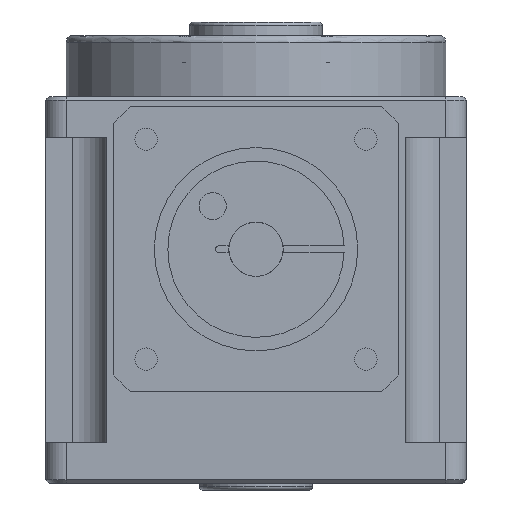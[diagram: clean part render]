
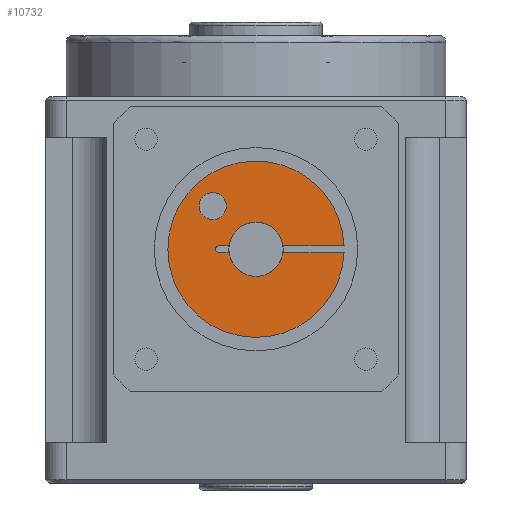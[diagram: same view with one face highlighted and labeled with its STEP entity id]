
A CAD part, front view. The second image highlights one B-rep face of the part: STEP entity #10732.
In plain terms, the highlighted planar face has unit normal (0, -1, 0) as drawn and (0, 0, -1) by its records, which use the part's own axes.
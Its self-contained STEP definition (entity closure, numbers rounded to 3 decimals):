
#106 = DIRECTION ( 'NONE',  ( -1., 0., 0. ) ) ;
#503 = DIRECTION ( 'NONE',  ( -1., 0., 0. ) ) ;
#513 = LINE ( 'NONE', #11196, #1569 ) ;
#548 = ORIENTED_EDGE ( 'NONE', *, *, #11137, .T. ) ;
#618 = DIRECTION ( 'NONE',  ( 0., 0., -1. ) ) ;
#731 = CARTESIAN_POINT ( 'NONE',  ( -5.5, 0., -48.5 ) ) ;
#859 = DIRECTION ( 'NONE',  ( -1., 0., 0. ) ) ;
#901 = CARTESIAN_POINT ( 'NONE',  ( 12.99, 0.5, -48.5 ) ) ;
#903 = VERTEX_POINT ( 'NONE', #6035 ) ;
#1033 = VERTEX_POINT ( 'NONE', #2466 ) ;
#1353 = CARTESIAN_POINT ( 'NONE',  ( -4.378, -6.35, -48.5 ) ) ;
#1412 = EDGE_CURVE ( 'NONE', #8271, #3843, #10724, .T. ) ;
#1507 = DIRECTION ( 'NONE',  ( -1., 0., 0. ) ) ;
#1514 = DIRECTION ( 'NONE',  ( -1., 0., 0. ) ) ;
#1569 = VECTOR ( 'NONE', #1514, 1000. ) ;
#1593 = CARTESIAN_POINT ( 'NONE',  ( 0., 0., -48.5 ) ) ;
#1730 = ORIENTED_EDGE ( 'NONE', *, *, #9879, .F. ) ;
#1823 = FACE_OUTER_BOUND ( 'NONE', #7203, .T. ) ;
#1882 = VERTEX_POINT ( 'NONE', #3974 ) ;
#2012 = ORIENTED_EDGE ( 'NONE', *, *, #7474, .F. ) ;
#2095 = AXIS2_PLACEMENT_3D ( 'NONE', #10063, #9122, #503 ) ;
#2235 = EDGE_CURVE ( 'NONE', #9010, #4891, #513, .T. ) ;
#2466 = CARTESIAN_POINT ( 'NONE',  ( -5.5, -0.5, -48.5 ) ) ;
#2651 = VERTEX_POINT ( 'NONE', #5650 ) ;
#2685 = AXIS2_PLACEMENT_3D ( 'NONE', #1593, #12397, #3771 ) ;
#2720 = ORIENTED_EDGE ( 'NONE', *, *, #2235, .T. ) ;
#2767 = CARTESIAN_POINT ( 'NONE',  ( 0., -0.5, -48.5 ) ) ;
#3241 = VERTEX_POINT ( 'NONE', #6769 ) ;
#3245 = CARTESIAN_POINT ( 'NONE',  ( -5.5, 0.5, -48.5 ) ) ;
#3474 = ORIENTED_EDGE ( 'NONE', *, *, #5657, .F. ) ;
#3583 = CARTESIAN_POINT ( 'NONE',  ( 0., -0.5, -48.5 ) ) ;
#3596 = AXIS2_PLACEMENT_3D ( 'NONE', #731, #4567, #9480 ) ;
#3626 = EDGE_CURVE ( 'NONE', #3843, #8271, #8509, .T. ) ;
#3697 = VECTOR ( 'NONE', #12256, 1000. ) ;
#3717 = DIRECTION ( 'NONE',  ( -1., 0., 0. ) ) ;
#3771 = DIRECTION ( 'NONE',  ( -1., 0., 0. ) ) ;
#3843 = VERTEX_POINT ( 'NONE', #7427 ) ;
#3938 = DIRECTION ( 'NONE',  ( 0., 0., -1. ) ) ;
#3974 = CARTESIAN_POINT ( 'NONE',  ( -3.969, -0.5, -48.5 ) ) ;
#4311 = AXIS2_PLACEMENT_3D ( 'NONE', #8919, #7139, #8160 ) ;
#4567 = DIRECTION ( 'NONE',  ( 0., 0., -1. ) ) ;
#4597 = EDGE_CURVE ( 'NONE', #903, #4891, #9033, .T. ) ;
#4718 = ORIENTED_EDGE ( 'NONE', *, *, #10940, .T. ) ;
#4819 = DIRECTION ( 'NONE',  ( 0., 0., -1. ) ) ;
#4876 = VECTOR ( 'NONE', #6292, 1000. ) ;
#4891 = VERTEX_POINT ( 'NONE', #3245 ) ;
#5128 = VECTOR ( 'NONE', #3717, 1000. ) ;
#5233 = AXIS2_PLACEMENT_3D ( 'NONE', #5452, #11961, #1507 ) ;
#5415 = PLANE ( 'NONE',  #2685 ) ;
#5452 = CARTESIAN_POINT ( 'NONE',  ( 0., 0., -48.5 ) ) ;
#5522 = EDGE_LOOP ( 'NONE', ( #11100, #5651 ) ) ;
#5650 = CARTESIAN_POINT ( 'NONE',  ( 3.969, 0.5, -48.5 ) ) ;
#5651 = ORIENTED_EDGE ( 'NONE', *, *, #1412, .F. ) ;
#5657 = EDGE_CURVE ( 'NONE', #9207, #3241, #10451, .T. ) ;
#5713 = ORIENTED_EDGE ( 'NONE', *, *, #4597, .F. ) ;
#5872 = CARTESIAN_POINT ( 'NONE',  ( -6.378, -6.35, -48.5 ) ) ;
#6035 = CARTESIAN_POINT ( 'NONE',  ( -6., 0., -48.5 ) ) ;
#6292 = DIRECTION ( 'NONE',  ( -1., 0., 0. ) ) ;
#6640 = AXIS2_PLACEMENT_3D ( 'NONE', #10563, #4819, #859 ) ;
#6662 = ORIENTED_EDGE ( 'NONE', *, *, #11336, .F. ) ;
#6769 = CARTESIAN_POINT ( 'NONE',  ( 3.969, -0.5, -48.5 ) ) ;
#7139 = DIRECTION ( 'NONE',  ( 0., 0., -1. ) ) ;
#7203 = EDGE_LOOP ( 'NONE', ( #4718, #548, #2012, #2720, #5713, #8600, #1730, #6662, #3474 ) ) ;
#7427 = CARTESIAN_POINT ( 'NONE',  ( -8.378, -6.35, -48.5 ) ) ;
#7474 = EDGE_CURVE ( 'NONE', #9010, #2651, #9060, .T. ) ;
#7630 = EDGE_CURVE ( 'NONE', #1033, #903, #8058, .T. ) ;
#8058 = CIRCLE ( 'NONE', #6640, 0.5 ) ;
#8139 = CIRCLE ( 'NONE', #4311, 4. ) ;
#8160 = DIRECTION ( 'NONE',  ( -1., 0., 0. ) ) ;
#8271 = VERTEX_POINT ( 'NONE', #1353 ) ;
#8509 = CIRCLE ( 'NONE', #10922, 2. ) ;
#8600 = ORIENTED_EDGE ( 'NONE', *, *, #7630, .F. ) ;
#8919 = CARTESIAN_POINT ( 'NONE',  ( 0., 0., -48.5 ) ) ;
#9010 = VERTEX_POINT ( 'NONE', #9754 ) ;
#9033 = CIRCLE ( 'NONE', #3596, 0.5 ) ;
#9060 = CIRCLE ( 'NONE', #5233, 4. ) ;
#9122 = DIRECTION ( 'NONE',  ( 0., 0., -1. ) ) ;
#9131 = CARTESIAN_POINT ( 'NONE',  ( 12.99, -0.5, -48.5 ) ) ;
#9207 = VERTEX_POINT ( 'NONE', #9131 ) ;
#9363 = LINE ( 'NONE', #12139, #3697 ) ;
#9376 = LINE ( 'NONE', #3583, #4876 ) ;
#9480 = DIRECTION ( 'NONE',  ( -1., 0., 0. ) ) ;
#9754 = CARTESIAN_POINT ( 'NONE',  ( -3.969, 0.5, -48.5 ) ) ;
#9879 = EDGE_CURVE ( 'NONE', #1882, #1033, #9376, .T. ) ;
#9937 = AXIS2_PLACEMENT_3D ( 'NONE', #11002, #618, #12013 ) ;
#10063 = CARTESIAN_POINT ( 'NONE',  ( 0., 0., -48.5 ) ) ;
#10451 = LINE ( 'NONE', #2767, #5128 ) ;
#10563 = CARTESIAN_POINT ( 'NONE',  ( -5.5, 0., -48.5 ) ) ;
#10724 = CIRCLE ( 'NONE', #9937, 2. ) ;
#10732 = ADVANCED_FACE ( 'NONE', ( #11155, #1823 ), #5415, .T. ) ;
#10922 = AXIS2_PLACEMENT_3D ( 'NONE', #5872, #3938, #106 ) ;
#10940 = EDGE_CURVE ( 'NONE', #9207, #11653, #11544, .T. ) ;
#11002 = CARTESIAN_POINT ( 'NONE',  ( -6.378, -6.35, -48.5 ) ) ;
#11100 = ORIENTED_EDGE ( 'NONE', *, *, #3626, .F. ) ;
#11137 = EDGE_CURVE ( 'NONE', #11653, #2651, #9363, .T. ) ;
#11155 = FACE_BOUND ( 'NONE', #5522, .T. ) ;
#11196 = CARTESIAN_POINT ( 'NONE',  ( 0., 0.5, -48.5 ) ) ;
#11336 = EDGE_CURVE ( 'NONE', #3241, #1882, #8139, .T. ) ;
#11544 = CIRCLE ( 'NONE', #2095, 13. ) ;
#11653 = VERTEX_POINT ( 'NONE', #901 ) ;
#11961 = DIRECTION ( 'NONE',  ( 0., 0., -1. ) ) ;
#12013 = DIRECTION ( 'NONE',  ( -1., 0., 0. ) ) ;
#12139 = CARTESIAN_POINT ( 'NONE',  ( 0., 0.5, -48.5 ) ) ;
#12256 = DIRECTION ( 'NONE',  ( -1., 0., 0. ) ) ;
#12397 = DIRECTION ( 'NONE',  ( 0., 0., -1. ) ) ;
